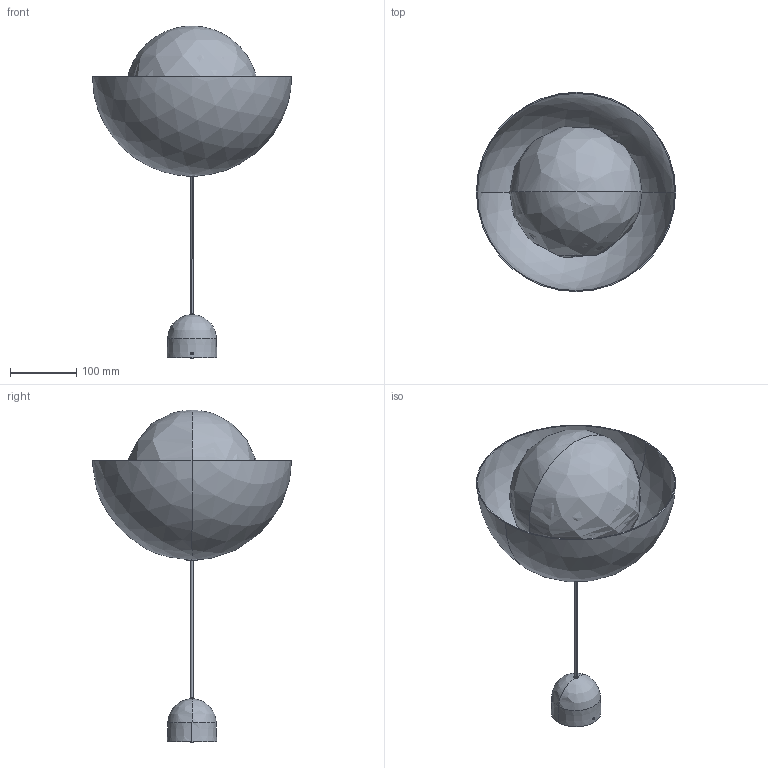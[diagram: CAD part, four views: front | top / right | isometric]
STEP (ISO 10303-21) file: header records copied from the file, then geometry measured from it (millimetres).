
FILE_DESCRIPTION(/* description */ (''),/* implementation_level */ '2;1');
FILE_NAME(/* name */ '60012.step',/* time_stamp */ '2024-05-14T17:17:08+02:00',/* author */ ('RenataManzini'),/* organization */ (''),/* preprocessor_version */ 'ST-DEVELOPER v20',/* originating_system */ 'AutoCAD Mechanical',/* authorisation */ '');
FILE_SCHEMA (('AUTOMOTIVE_DESIGN { 1 0 10303 214 3 1 1 }'));
Length unit declared in the file: millimetre
Products named in the file (4): Product; lamp_holder - Lamp Holder-704611-_3D_; Pieza_marisol - pieza-703781-_3D_; Pieza_marisol - MARISOL_dwg_S1493-703750-_3D_
Assembly tree (3 placements, depth 3):
  Product
    lamp_holder - Lamp Holder-704611-_3D_
    Pieza_marisol - pieza-703781-_3D_
      Pieza_marisol - MARISOL_dwg_S1493-703750-_3D_
Bounding box: 299.98 x 299.98 x 500 mm (x, y, z)
Volume: 564748.4 mm3; surface area: 582238 mm2
Topology: 8 solids, 9 shells, 170 faces, 392 edges, 229 vertices
Faces by surface type: cylinder 65, plane 64, bspline 19, cone 14, sphere 8
Entity records: 7640 total; most frequent: CARTESIAN_POINT 3873, ORIENTED_EDGE 758, DIRECTION 744, EDGE_CURVE 381, AXIS2_PLACEMENT_3D 278, VERTEX_POINT 224, LINE 188, VECTOR 188
